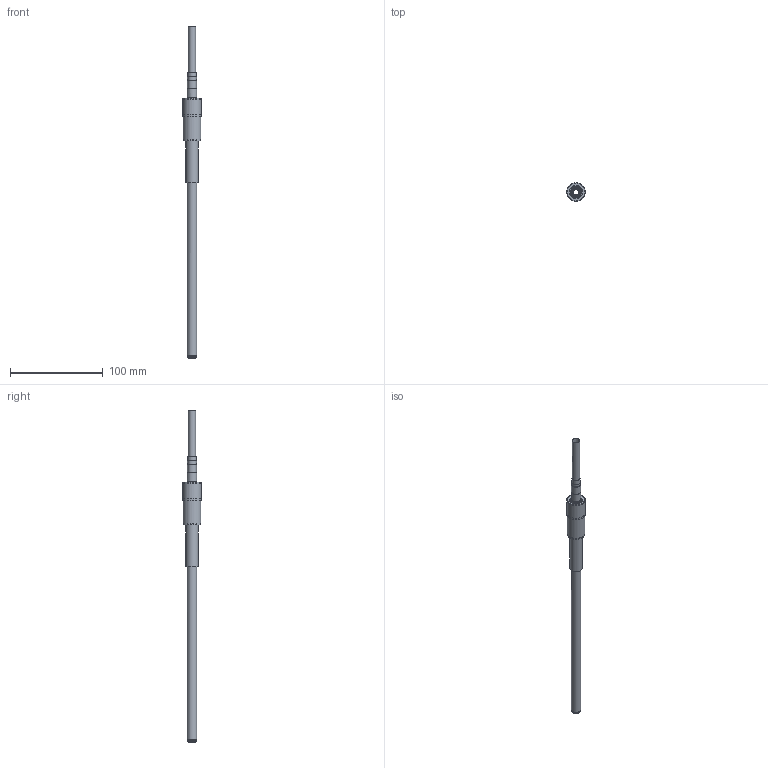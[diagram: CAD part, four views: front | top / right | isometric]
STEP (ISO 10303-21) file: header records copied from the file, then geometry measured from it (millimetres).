
FILE_DESCRIPTION(('STEP AP214'),'1');
FILE_NAME('LC-10300.stp','2025-10-28T13:29:09',(' '),(' '),'Spatial InterOp 3D',' ',' ');
FILE_SCHEMA(('AUTOMOTIVE_DESIGN { 1 0 10303 214 1 1 1 1 }'));
Length unit declared in the file: metre
Products named in the file (6): LC-10SU; LC-10SU-SEDE; LC-10P300-SEDE; LC-10P300
Bounding box: 20 x 20 x 357.75 mm (x, y, z)
Volume: 23896.1 mm3; surface area: 27913.8 mm2
Topology: 2 solids, 6 shells, 51 faces, 113 edges, 77 vertices
Faces by surface type: plane 23, cylinder 15, cone 10, torus 3
Full cylindrical faces by diameter (mm): 6 x1, 8 x1, 8.8 x1, 9.8 x1, 10 x2, 10.5 x1, 13 x1, 14 x1, 14.5 x1, 18.9 x1, 19 x1, 20 x1
Entity records: 2116 total; most frequent: CARTESIAN_POINT 281, DIRECTION 230, ORIENTED_EDGE 140, STYLED_ITEM 114, PRESENTATION_STYLE_ASSIGNMENT 114, COLOUR_RGB 114, AXIS2_PLACEMENT_3D 103, EDGE_LOOP 90
